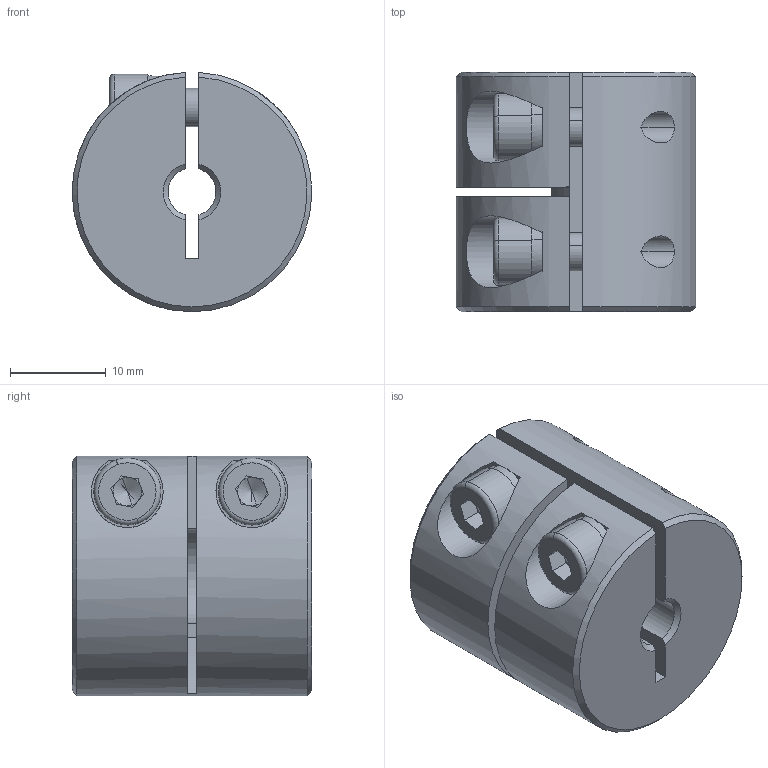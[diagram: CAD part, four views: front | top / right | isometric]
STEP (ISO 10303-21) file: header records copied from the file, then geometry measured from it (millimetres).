
FILE_DESCRIPTION (( 'STEP AP203' ), '1' );
FILE_NAME ('LL-B-D25L25-5-10.STEP', '2021-11-05T06:26:04', ( '' ), ( '' ), 'SwSTEP 2.0', 'SolidWorks 2018', '' );
FILE_SCHEMA (( 'CONFIG_CONTROL_DESIGN' ));
Length unit declared in the file: millimetre
Products named in the file (1): LL-B-D25L25-5-10
Bounding box: 24.99 x 25 x 24.98 mm (x, y, z)
Volume: 10214.9 mm3; surface area: 4962.5 mm2
Topology: 1 solids, 1 shells, 104 faces, 270 edges, 170 vertices
Faces by surface type: plane 52, cylinder 37, cone 11, torus 4
Entity records: 3471 total; most frequent: CARTESIAN_POINT 815, DIRECTION 560, ORIENTED_EDGE 532, EDGE_CURVE 266, AXIS2_PLACEMENT_3D 215, VERTEX_POINT 170, VECTOR 130, LINE 130
